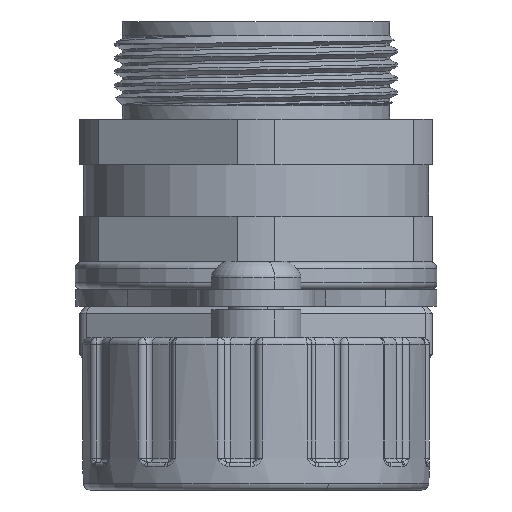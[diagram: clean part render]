
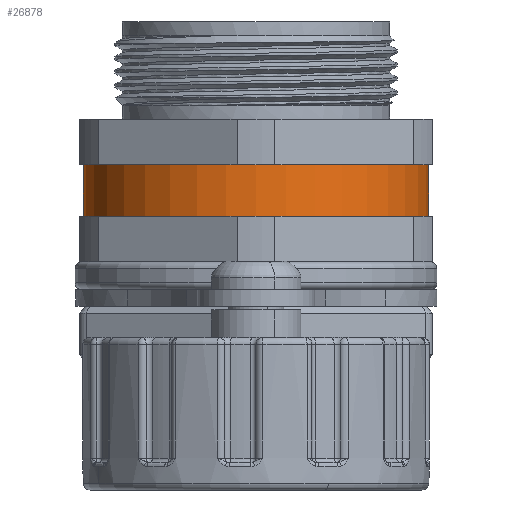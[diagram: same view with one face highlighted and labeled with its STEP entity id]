
A CAD part, front view. The second image highlights one B-rep face of the part: STEP entity #26878.
In plain terms, the highlighted cylindrical face has radius 12.445 mm (diameter 24.89 mm), a partial arc.
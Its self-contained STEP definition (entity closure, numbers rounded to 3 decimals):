
#6771=CARTESIAN_POINT('',(0.,0.,1.5));
#6772=DIRECTION('',(0.,0.,1.));
#6773=DIRECTION('',(-1.,0.,0.));
#6774=AXIS2_PLACEMENT_3D('',#6771,#6772,#6773);
#6781=DIRECTION('',(0.,0.,1.));
#6782=VECTOR('',#6781,3.7);
#6783=CARTESIAN_POINT('',(-12.445,0.,1.5));
#6784=LINE('',#6783,#6782);
#6785=DIRECTION('',(0.,0.,1.));
#6786=VECTOR('',#6785,3.7);
#6787=CARTESIAN_POINT('',(12.445,0.,1.5));
#6788=LINE('',#6787,#6786);
#6789=CARTESIAN_POINT('',(0.,0.,5.2));
#6790=DIRECTION('',(0.,0.,1.));
#6791=DIRECTION('',(-1.,0.,0.));
#6792=AXIS2_PLACEMENT_3D('',#6789,#6790,#6791);
#13923=CARTESIAN_POINT('',(-12.445,0.,1.5));
#13924=CARTESIAN_POINT('',(12.445,0.,1.5));
#13925=VERTEX_POINT('',#13923);
#13926=VERTEX_POINT('',#13924);
#13927=CARTESIAN_POINT('',(-12.445,0.,5.2));
#13928=CARTESIAN_POINT('',(12.445,0.,5.2));
#13929=VERTEX_POINT('',#13927);
#13930=VERTEX_POINT('',#13928);
#26864=CARTESIAN_POINT('',(0.,0.,1.5));
#26865=DIRECTION('',(0.,0.,-1.));
#26866=DIRECTION('',(-1.,0.,0.));
#26867=AXIS2_PLACEMENT_3D('',#26864,#26865,#26866);
#26868=CYLINDRICAL_SURFACE('',#26867,12.445);
#26869=ORIENTED_EDGE('',*,*,#26857,.F.);
#26871=ORIENTED_EDGE('',*,*,#26870,.T.);
#26873=ORIENTED_EDGE('',*,*,#26872,.T.);
#26875=ORIENTED_EDGE('',*,*,#26874,.F.);
#26876=EDGE_LOOP('',(#26869,#26871,#26873,#26875));
#26877=FACE_OUTER_BOUND('',#26876,.F.);
#26878=ADVANCED_FACE('',(#26877),#26868,.T.);
#6775=CIRCLE('',#6774,12.445);
#6793=CIRCLE('',#6792,12.445);
#26857=EDGE_CURVE('',#13925,#13926,#6775,.T.);
#26870=EDGE_CURVE('',#13925,#13929,#6784,.T.);
#26872=EDGE_CURVE('',#13929,#13930,#6793,.T.);
#26874=EDGE_CURVE('',#13926,#13930,#6788,.T.);
